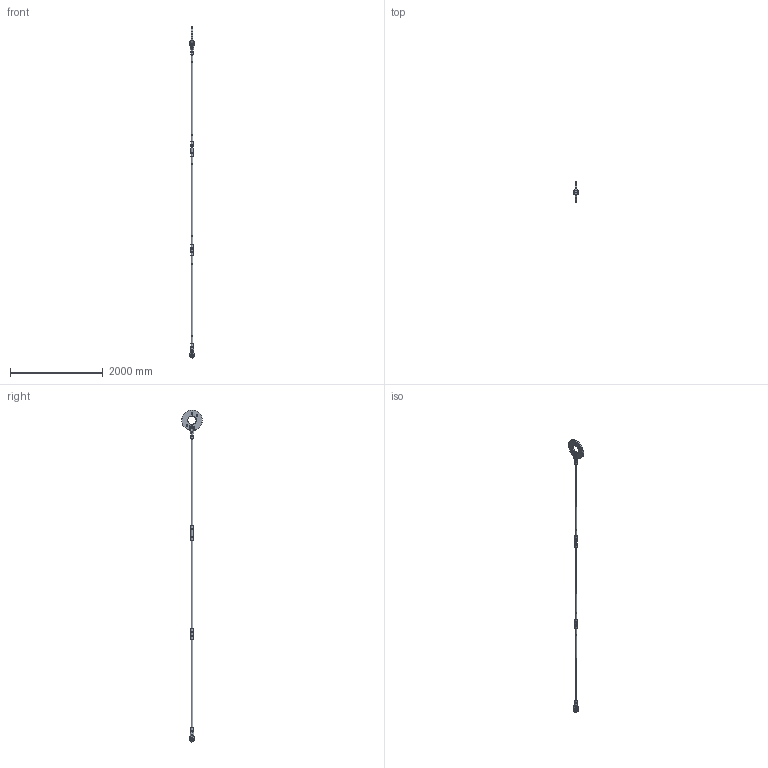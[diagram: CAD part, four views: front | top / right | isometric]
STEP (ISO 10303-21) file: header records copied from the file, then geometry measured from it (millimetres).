
FILE_DESCRIPTION(/* description */ (''),/* implementation_level */ '2;1');
FILE_NAME(/* name */ 'C:\Vault-WS\Anker\Werksnorm\Hochbau\ASDO-System\ASDO-S\System Komplett\Step\M 036.stp',/* time_stamp */ '2014-01-30T09:15:17+01:00',/* author */ ('ritgen'),/* organization */ (''),/* preprocessor_version */ 'ST-DEVELOPER v15.2',/* originating_system */ 'Autodesk Inventor 2014',/* authorisation */ '');
FILE_SCHEMA (('AUTOMOTIVE_DESIGN { 1 0 10303 214 3 1 1 }'));
Length unit declared in the file: millimetre
Products named in the file (11): ASDO-005757; ASDO-006541; ASDO-014321; DIN 7991 - M6x16 - 8.8; ASDO-013931; ASDO-001671; ASDO-001323; ASDO-001449; ASDO-013972; ASDO-014006; ASDO-013971
Bounding box: 92.5 x 444.58 x 7173.21 mm (x, y, z)
Volume: 12483127.1 mm3; surface area: 1502410.9 mm2
Topology: 20 solids, 20 shells, 465 faces, 994 edges, 608 vertices
Faces by surface type: plane 154, bspline 144, cylinder 79, cone 46, torus 42
Full cylindrical faces by diameter (mm): 4.917 x2, 6 x20, 7 x2, 12 x2, 31.67 x11, 36 x5, 38 x8, 39 x1, 39.5 x6, 51 x6, 54 x4, 56 x2, 180 x1, 445 x1
Entity records: 13782 total; most frequent: CARTESIAN_POINT 9412, DIRECTION 794, ORIENTED_EDGE 782, EDGE_CURVE 391, AXIS2_PLACEMENT_3D 358, EDGE_LOOP 324, VERTEX_POINT 273, ADVANCED_FACE 218
